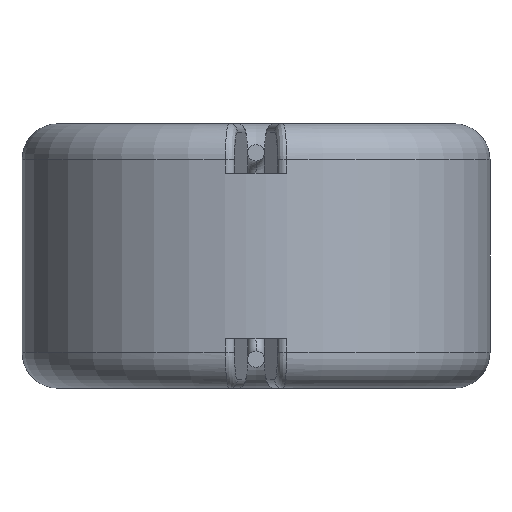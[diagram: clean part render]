
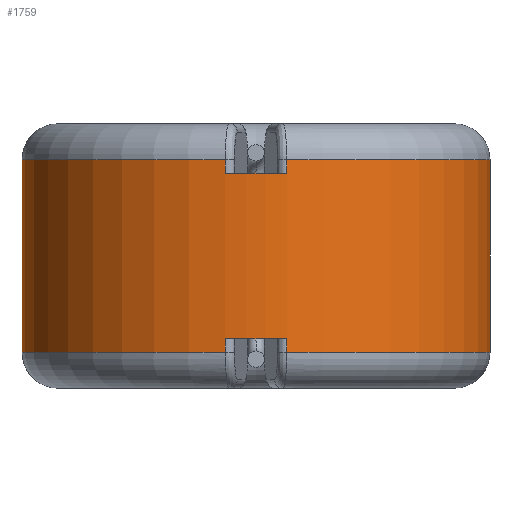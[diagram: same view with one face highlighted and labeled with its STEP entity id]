
A CAD part, front view. The second image highlights one B-rep face of the part: STEP entity #1759.
In plain terms, the highlighted cylindrical face has radius 8.5 mm (diameter 17 mm), a partial arc.
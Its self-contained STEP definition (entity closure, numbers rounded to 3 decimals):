
#44 = DIRECTION ( 'NONE',  ( 0., 0., -1. ) ) ;
#56 = CARTESIAN_POINT ( 'NONE',  ( -1.114, -8.427, 4.8 ) ) ;
#186 = ORIENTED_EDGE ( 'NONE', *, *, #3672, .F. ) ;
#211 = DIRECTION ( 'NONE',  ( 1., 0., 0. ) ) ;
#214 = DIRECTION ( 'NONE',  ( 0., 0., -1. ) ) ;
#220 = AXIS2_PLACEMENT_3D ( 'NONE', #2587, #1139, #1153 ) ;
#238 = EDGE_CURVE ( 'NONE', #2412, #2157, #452, .T. ) ;
#278 = CARTESIAN_POINT ( 'NONE',  ( 1.114, -8.427, -3.5 ) ) ;
#289 = CARTESIAN_POINT ( 'NONE',  ( -1.114, -8.427, 3. ) ) ;
#302 = VECTOR ( 'NONE', #412, 1000. ) ;
#340 = VECTOR ( 'NONE', #1327, 1000. ) ;
#366 = ORIENTED_EDGE ( 'NONE', *, *, #1372, .F. ) ;
#407 = EDGE_CURVE ( 'NONE', #3369, #988, #637, .T. ) ;
#412 = DIRECTION ( 'NONE',  ( 0., 0., -1. ) ) ;
#452 = CIRCLE ( 'NONE', #220, 8.5 ) ;
#476 = EDGE_CURVE ( 'NONE', #2072, #674, #795, .T. ) ;
#510 = DIRECTION ( 'NONE',  ( -1., 0., 0. ) ) ;
#524 = DIRECTION ( 'NONE',  ( 0., 0., -1. ) ) ;
#558 = LINE ( 'NONE', #1333, #2435 ) ;
#577 = VERTEX_POINT ( 'NONE', #289 ) ;
#625 = ORIENTED_EDGE ( 'NONE', *, *, #2779, .T. ) ;
#637 = CIRCLE ( 'NONE', #3614, 8.5 ) ;
#653 = EDGE_CURVE ( 'NONE', #859, #1003, #2482, .T. ) ;
#674 = VERTEX_POINT ( 'NONE', #3468 ) ;
#677 = ORIENTED_EDGE ( 'NONE', *, *, #476, .T. ) ;
#710 = CARTESIAN_POINT ( 'NONE',  ( 1.114, -8.427, 4.8 ) ) ;
#737 = CARTESIAN_POINT ( 'NONE',  ( 8.5, 0., 3.5 ) ) ;
#739 = EDGE_LOOP ( 'NONE', ( #366, #2856, #625, #186, #857, #677, #3567, #1461, #3710, #2589, #1923, #2672 ) ) ;
#795 = CIRCLE ( 'NONE', #1839, 8.5 ) ;
#801 = CARTESIAN_POINT ( 'NONE',  ( 0., 0., 4.8 ) ) ;
#854 = DIRECTION ( 'NONE',  ( 1., 0., 0. ) ) ;
#857 = ORIENTED_EDGE ( 'NONE', *, *, #1481, .T. ) ;
#858 = DIRECTION ( 'NONE',  ( 0., 0., 1. ) ) ;
#859 = VERTEX_POINT ( 'NONE', #737 ) ;
#881 = DIRECTION ( 'NONE',  ( 0., 0., 1. ) ) ;
#884 = LINE ( 'NONE', #3048, #340 ) ;
#949 = DIRECTION ( 'NONE',  ( 1., 0., 0. ) ) ;
#988 = VERTEX_POINT ( 'NONE', #2202 ) ;
#1003 = VERTEX_POINT ( 'NONE', #2512 ) ;
#1139 = DIRECTION ( 'NONE',  ( 0., 0., 1. ) ) ;
#1153 = DIRECTION ( 'NONE',  ( 1., 0., 0. ) ) ;
#1327 = DIRECTION ( 'NONE',  ( 0., 0., -1. ) ) ;
#1333 = CARTESIAN_POINT ( 'NONE',  ( 8.5, 0., 4.8 ) ) ;
#1372 = EDGE_CURVE ( 'NONE', #859, #988, #558, .T. ) ;
#1392 = VERTEX_POINT ( 'NONE', #1927 ) ;
#1401 = VECTOR ( 'NONE', #858, 1000. ) ;
#1457 = VECTOR ( 'NONE', #2881, 1000. ) ;
#1461 = ORIENTED_EDGE ( 'NONE', *, *, #3589, .T. ) ;
#1481 = EDGE_CURVE ( 'NONE', #577, #2072, #1902, .T. ) ;
#1486 = DIRECTION ( 'NONE',  ( 1., 0., 0. ) ) ;
#1561 = VERTEX_POINT ( 'NONE', #1819 ) ;
#1633 = FACE_OUTER_BOUND ( 'NONE', #739, .T. ) ;
#1720 = EDGE_CURVE ( 'NONE', #3045, #2412, #2698, .T. ) ;
#1759 = ADVANCED_FACE ( 'NONE', ( #1633 ), #1939, .T. ) ;
#1819 = CARTESIAN_POINT ( 'NONE',  ( -8.5, 0., -3.5 ) ) ;
#1839 = AXIS2_PLACEMENT_3D ( 'NONE', #2514, #3376, #211 ) ;
#1866 = CARTESIAN_POINT ( 'NONE',  ( 0., 0., -3.5 ) ) ;
#1902 = LINE ( 'NONE', #56, #1401 ) ;
#1923 = ORIENTED_EDGE ( 'NONE', *, *, #2149, .T. ) ;
#1927 = CARTESIAN_POINT ( 'NONE',  ( 1.114, -8.427, 3. ) ) ;
#1939 = CYLINDRICAL_SURFACE ( 'NONE', #2564, 8.5 ) ;
#2042 = CARTESIAN_POINT ( 'NONE',  ( -1.114, -8.427, 3.5 ) ) ;
#2072 = VERTEX_POINT ( 'NONE', #2042 ) ;
#2149 = EDGE_CURVE ( 'NONE', #2157, #3369, #2534, .T. ) ;
#2157 = VERTEX_POINT ( 'NONE', #2411 ) ;
#2200 = DIRECTION ( 'NONE',  ( 0., 0., 1. ) ) ;
#2202 = CARTESIAN_POINT ( 'NONE',  ( 8.5, 0., -3.5 ) ) ;
#2215 = CIRCLE ( 'NONE', #2317, 8.5 ) ;
#2255 = CIRCLE ( 'NONE', #3035, 8.5 ) ;
#2303 = VECTOR ( 'NONE', #3547, 1000. ) ;
#2317 = AXIS2_PLACEMENT_3D ( 'NONE', #3325, #2200, #854 ) ;
#2366 = CARTESIAN_POINT ( 'NONE',  ( -1.114, -8.427, -3. ) ) ;
#2373 = CARTESIAN_POINT ( 'NONE',  ( 0., 0., 3.5 ) ) ;
#2411 = CARTESIAN_POINT ( 'NONE',  ( 1.114, -8.427, -3. ) ) ;
#2412 = VERTEX_POINT ( 'NONE', #2366 ) ;
#2433 = CARTESIAN_POINT ( 'NONE',  ( -1.114, -8.427, 4.8 ) ) ;
#2435 = VECTOR ( 'NONE', #214, 1000. ) ;
#2440 = DIRECTION ( 'NONE',  ( 1., 0., 0. ) ) ;
#2482 = CIRCLE ( 'NONE', #3516, 8.5 ) ;
#2512 = CARTESIAN_POINT ( 'NONE',  ( 1.114, -8.427, 3.5 ) ) ;
#2514 = CARTESIAN_POINT ( 'NONE',  ( 0., 0., 3.5 ) ) ;
#2534 = LINE ( 'NONE', #710, #302 ) ;
#2536 = CARTESIAN_POINT ( 'NONE',  ( 1.114, -8.427, 4.8 ) ) ;
#2564 = AXIS2_PLACEMENT_3D ( 'NONE', #801, #524, #510 ) ;
#2587 = CARTESIAN_POINT ( 'NONE',  ( 0., 0., -3. ) ) ;
#2589 = ORIENTED_EDGE ( 'NONE', *, *, #238, .T. ) ;
#2606 = CARTESIAN_POINT ( 'NONE',  ( 0., 0., 3. ) ) ;
#2663 = LINE ( 'NONE', #2536, #1457 ) ;
#2672 = ORIENTED_EDGE ( 'NONE', *, *, #407, .T. ) ;
#2698 = LINE ( 'NONE', #2433, #2303 ) ;
#2779 = EDGE_CURVE ( 'NONE', #1003, #1392, #2663, .T. ) ;
#2856 = ORIENTED_EDGE ( 'NONE', *, *, #653, .T. ) ;
#2881 = DIRECTION ( 'NONE',  ( 0., 0., -1. ) ) ;
#2997 = EDGE_CURVE ( 'NONE', #674, #1561, #884, .T. ) ;
#3027 = DIRECTION ( 'NONE',  ( 0., 0., 1. ) ) ;
#3035 = AXIS2_PLACEMENT_3D ( 'NONE', #2606, #881, #1486 ) ;
#3045 = VERTEX_POINT ( 'NONE', #3632 ) ;
#3048 = CARTESIAN_POINT ( 'NONE',  ( -8.5, 0., 4.8 ) ) ;
#3325 = CARTESIAN_POINT ( 'NONE',  ( 0., 0., -3.5 ) ) ;
#3369 = VERTEX_POINT ( 'NONE', #278 ) ;
#3376 = DIRECTION ( 'NONE',  ( 0., 0., -1. ) ) ;
#3468 = CARTESIAN_POINT ( 'NONE',  ( -8.5, 0., 3.5 ) ) ;
#3516 = AXIS2_PLACEMENT_3D ( 'NONE', #2373, #44, #949 ) ;
#3547 = DIRECTION ( 'NONE',  ( 0., 0., 1. ) ) ;
#3567 = ORIENTED_EDGE ( 'NONE', *, *, #2997, .T. ) ;
#3589 = EDGE_CURVE ( 'NONE', #1561, #3045, #2215, .T. ) ;
#3614 = AXIS2_PLACEMENT_3D ( 'NONE', #1866, #3027, #2440 ) ;
#3632 = CARTESIAN_POINT ( 'NONE',  ( -1.114, -8.427, -3.5 ) ) ;
#3672 = EDGE_CURVE ( 'NONE', #577, #1392, #2255, .T. ) ;
#3710 = ORIENTED_EDGE ( 'NONE', *, *, #1720, .T. ) ;
